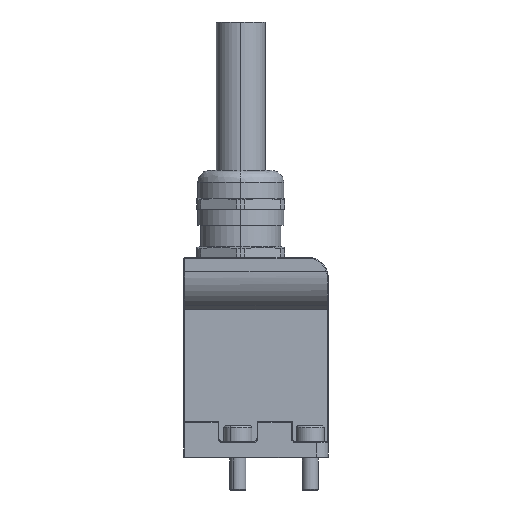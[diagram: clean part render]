
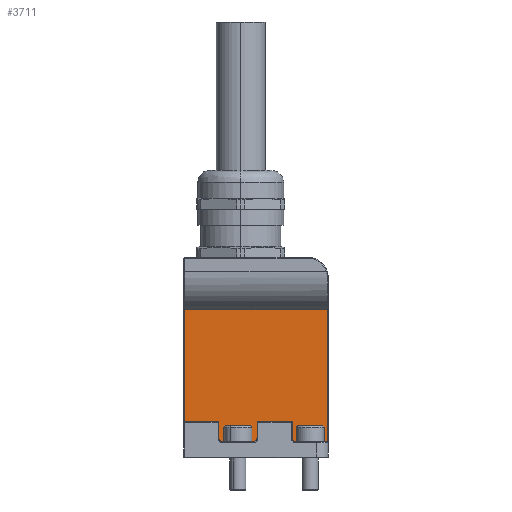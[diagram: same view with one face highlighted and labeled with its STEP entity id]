
A CAD part, left-side view. The second image highlights one B-rep face of the part: STEP entity #3711.
In plain terms, the highlighted planar face has unit normal (-1, 0, 0).
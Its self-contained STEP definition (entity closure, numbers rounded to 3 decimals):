
#249 = EDGE_CURVE ( 'NONE', #5849, #4362, #3622, .T. ) ;
#301 = CARTESIAN_POINT ( 'NONE',  ( -21.25, -17.8, 9. ) ) ;
#406 = ORIENTED_EDGE ( 'NONE', *, *, #6615, .F. ) ;
#599 = VERTEX_POINT ( 'NONE', #8543 ) ;
#608 = LINE ( 'NONE', #301, #7428 ) ;
#934 = DIRECTION ( 'NONE',  ( 0., 0., -1. ) ) ;
#936 = DIRECTION ( 'NONE',  ( 0., 0., 1. ) ) ;
#1320 = CARTESIAN_POINT ( 'NONE',  ( -21.25, 9.25, 9. ) ) ;
#1345 = VERTEX_POINT ( 'NONE', #4449 ) ;
#1606 = DIRECTION ( 'NONE',  ( 0., 0., 1. ) ) ;
#1705 = EDGE_CURVE ( 'NONE', #3940, #16810, #14890, .T. ) ;
#1754 = CARTESIAN_POINT ( 'NONE',  ( -21.25, -0.25, 4. ) ) ;
#2037 = DIRECTION ( 'NONE',  ( 0., 0., -1. ) ) ;
#2075 = ORIENTED_EDGE ( 'NONE', *, *, #3061, .T. ) ;
#2142 = AXIS2_PLACEMENT_3D ( 'NONE', #15368, #16793, #10928 ) ;
#2159 = VECTOR ( 'NONE', #10558, 1000. ) ;
#2259 = LINE ( 'NONE', #5966, #5651 ) ;
#2315 = ORIENTED_EDGE ( 'NONE', *, *, #5145, .T. ) ;
#2864 = VECTOR ( 'NONE', #12452, 1000. ) ;
#2949 = CARTESIAN_POINT ( 'NONE',  ( -21.25, 17.8, 9. ) ) ;
#3061 = EDGE_CURVE ( 'NONE', #7011, #5849, #9930, .T. ) ;
#3622 = LINE ( 'NONE', #10790, #15782 ) ;
#3711 = ADVANCED_FACE ( 'NONE', ( #13089 ), #10517, .F. ) ;
#3722 = CARTESIAN_POINT ( 'NONE',  ( -21.25, -9., 4. ) ) ;
#3724 = CARTESIAN_POINT ( 'NONE',  ( -21.25, 9.25, 4. ) ) ;
#3922 = CARTESIAN_POINT ( 'NONE',  ( -21.25, -10., 4. ) ) ;
#3940 = VERTEX_POINT ( 'NONE', #14668 ) ;
#4090 = ORIENTED_EDGE ( 'NONE', *, *, #9010, .T. ) ;
#4122 = ORIENTED_EDGE ( 'NONE', *, *, #14612, .F. ) ;
#4292 = AXIS2_PLACEMENT_3D ( 'NONE', #16910, #5472, #11349 ) ;
#4362 = VERTEX_POINT ( 'NONE', #14472 ) ;
#4399 = VECTOR ( 'NONE', #5012, 1000. ) ;
#4449 = CARTESIAN_POINT ( 'NONE',  ( -21.25, 17.8, 37. ) ) ;
#4868 = LINE ( 'NONE', #1754, #2159 ) ;
#5012 = DIRECTION ( 'NONE',  ( 0., 0., -1. ) ) ;
#5111 = CARTESIAN_POINT ( 'NONE',  ( -21.25, 8.25, 5. ) ) ;
#5145 = EDGE_CURVE ( 'NONE', #14898, #10366, #16587, .T. ) ;
#5170 = EDGE_CURVE ( 'NONE', #599, #16810, #15473, .T. ) ;
#5472 = DIRECTION ( 'NONE',  ( -1., 0., 0. ) ) ;
#5651 = VECTOR ( 'NONE', #1606, 1000. ) ;
#5660 = VERTEX_POINT ( 'NONE', #2949 ) ;
#5849 = VERTEX_POINT ( 'NONE', #17648 ) ;
#5900 = ORIENTED_EDGE ( 'NONE', *, *, #11313, .T. ) ;
#5966 = CARTESIAN_POINT ( 'NONE',  ( -21.25, -9., 4. ) ) ;
#6491 = VECTOR ( 'NONE', #9772, 1000. ) ;
#6615 = EDGE_CURVE ( 'NONE', #14433, #5660, #11624, .T. ) ;
#6658 = CARTESIAN_POINT ( 'NONE',  ( -21.25, -18., 37. ) ) ;
#7011 = VERTEX_POINT ( 'NONE', #7423 ) ;
#7026 = DIRECTION ( 'NONE',  ( -1., 0., 0. ) ) ;
#7297 = VERTEX_POINT ( 'NONE', #8113 ) ;
#7423 = CARTESIAN_POINT ( 'NONE',  ( -21.25, 0.75, 4. ) ) ;
#7425 = ORIENTED_EDGE ( 'NONE', *, *, #17095, .F. ) ;
#7428 = VECTOR ( 'NONE', #17443, 1000. ) ;
#7777 = VECTOR ( 'NONE', #10791, 1000. ) ;
#7913 = VECTOR ( 'NONE', #936, 1000. ) ;
#8025 = EDGE_CURVE ( 'NONE', #3940, #7297, #2259, .T. ) ;
#8113 = CARTESIAN_POINT ( 'NONE',  ( -21.25, -9., 9. ) ) ;
#8407 = ORIENTED_EDGE ( 'NONE', *, *, #15941, .T. ) ;
#8543 = CARTESIAN_POINT ( 'NONE',  ( -21.25, -17.8, 4. ) ) ;
#8605 = CARTESIAN_POINT ( 'NONE',  ( -21.25, 9.25, 5. ) ) ;
#8786 = ORIENTED_EDGE ( 'NONE', *, *, #8025, .F. ) ;
#8840 = AXIS2_PLACEMENT_3D ( 'NONE', #14751, #14814, #2037 ) ;
#9010 = EDGE_CURVE ( 'NONE', #14125, #1345, #14183, .T. ) ;
#9333 = CARTESIAN_POINT ( 'NONE',  ( -21.25, 17.8, 9. ) ) ;
#9584 = ORIENTED_EDGE ( 'NONE', *, *, #1705, .T. ) ;
#9772 = DIRECTION ( 'NONE',  ( 0., 1., 0. ) ) ;
#9930 = CIRCLE ( 'NONE', #2142, 1. ) ;
#10164 = LINE ( 'NONE', #3724, #7913 ) ;
#10366 = VERTEX_POINT ( 'NONE', #15145 ) ;
#10517 = PLANE ( 'NONE',  #8840 ) ;
#10558 = DIRECTION ( 'NONE',  ( 0., 1., 0. ) ) ;
#10790 = CARTESIAN_POINT ( 'NONE',  ( -21.25, -0.25, 4. ) ) ;
#10791 = DIRECTION ( 'NONE',  ( 0., 1., 0. ) ) ;
#10814 = DIRECTION ( 'NONE',  ( 0., 1., 0. ) ) ;
#10928 = DIRECTION ( 'NONE',  ( 0., 0., -1. ) ) ;
#10941 = CARTESIAN_POINT ( 'NONE',  ( -21.25, -18., 9. ) ) ;
#11313 = EDGE_CURVE ( 'NONE', #1345, #5660, #14117, .T. ) ;
#11349 = DIRECTION ( 'NONE',  ( 0., 0., -1. ) ) ;
#11624 = LINE ( 'NONE', #15153, #7777 ) ;
#12452 = DIRECTION ( 'NONE',  ( 0., 1., 0. ) ) ;
#13089 = FACE_OUTER_BOUND ( 'NONE', #17833, .T. ) ;
#13599 = AXIS2_PLACEMENT_3D ( 'NONE', #5111, #7026, #934 ) ;
#14117 = LINE ( 'NONE', #9333, #4399 ) ;
#14125 = VERTEX_POINT ( 'NONE', #17953 ) ;
#14183 = LINE ( 'NONE', #6658, #6491 ) ;
#14433 = VERTEX_POINT ( 'NONE', #1320 ) ;
#14472 = CARTESIAN_POINT ( 'NONE',  ( -21.25, -0.25, 9. ) ) ;
#14484 = ORIENTED_EDGE ( 'NONE', *, *, #5170, .F. ) ;
#14612 = EDGE_CURVE ( 'NONE', #14898, #14433, #10164, .T. ) ;
#14668 = CARTESIAN_POINT ( 'NONE',  ( -21.25, -9., 5. ) ) ;
#14744 = ORIENTED_EDGE ( 'NONE', *, *, #16209, .F. ) ;
#14751 = CARTESIAN_POINT ( 'NONE',  ( -21.25, -18., 9. ) ) ;
#14814 = DIRECTION ( 'NONE',  ( 1., 0., 0. ) ) ;
#14890 = CIRCLE ( 'NONE', #4292, 1. ) ;
#14898 = VERTEX_POINT ( 'NONE', #8605 ) ;
#15145 = CARTESIAN_POINT ( 'NONE',  ( -21.25, 8.25, 4. ) ) ;
#15153 = CARTESIAN_POINT ( 'NONE',  ( -21.25, -18., 9. ) ) ;
#15317 = ORIENTED_EDGE ( 'NONE', *, *, #249, .T. ) ;
#15368 = CARTESIAN_POINT ( 'NONE',  ( -21.25, 0.75, 5. ) ) ;
#15473 = LINE ( 'NONE', #3722, #2864 ) ;
#15734 = VECTOR ( 'NONE', #10814, 1000. ) ;
#15782 = VECTOR ( 'NONE', #16594, 1000. ) ;
#15941 = EDGE_CURVE ( 'NONE', #599, #14125, #608, .T. ) ;
#16209 = EDGE_CURVE ( 'NONE', #7297, #4362, #16839, .T. ) ;
#16587 = CIRCLE ( 'NONE', #13599, 1. ) ;
#16594 = DIRECTION ( 'NONE',  ( 0., 0., 1. ) ) ;
#16793 = DIRECTION ( 'NONE',  ( -1., 0., 0. ) ) ;
#16810 = VERTEX_POINT ( 'NONE', #3922 ) ;
#16839 = LINE ( 'NONE', #10941, #15734 ) ;
#16910 = CARTESIAN_POINT ( 'NONE',  ( -21.25, -10., 5. ) ) ;
#17095 = EDGE_CURVE ( 'NONE', #7011, #10366, #4868, .T. ) ;
#17443 = DIRECTION ( 'NONE',  ( 0., 0., 1. ) ) ;
#17648 = CARTESIAN_POINT ( 'NONE',  ( -21.25, -0.25, 5. ) ) ;
#17833 = EDGE_LOOP ( 'NONE', ( #4090, #5900, #406, #4122, #2315, #7425, #2075, #15317, #14744, #8786, #9584, #14484, #8407 ) ) ;
#17953 = CARTESIAN_POINT ( 'NONE',  ( -21.25, -17.8, 37. ) ) ;
